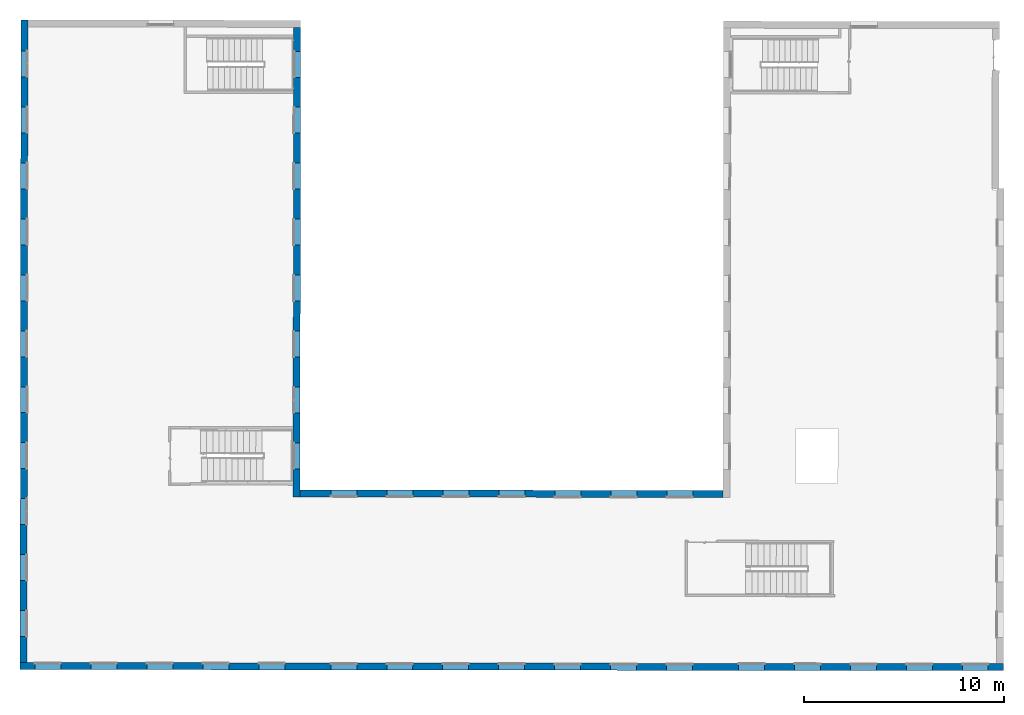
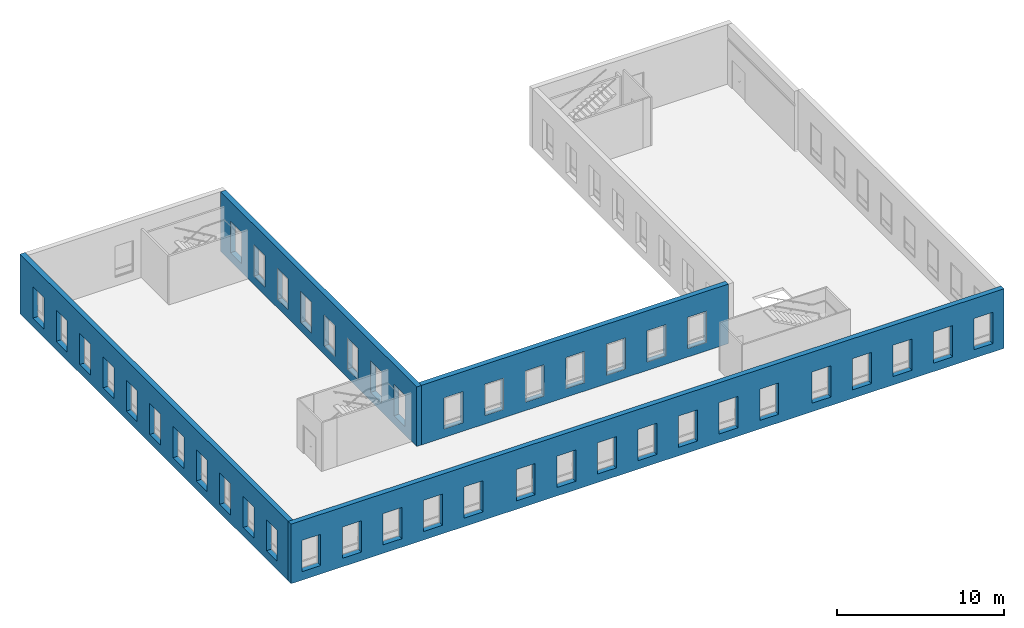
# One storey, part 30 of 35: 4 walls, 44 openings.
"""IFC2X3 building model written with IfcOpenShell, lengths in metres."""

from ifc_helpers import new_model, entity, si_unit, converted_unit, derived_unit, direction, frame, frame_2d, origin, place, context, subcontext, project, spatial, polyline, rectangle, outline, extrude, material, layer, layer_set, layer_usage, type_object, element, save


model = new_model("IFC2X3")

# Units and contexts
model_context = context("Model", 3, precision=1e-05, world=origin(), true_north=direction((6.123233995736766e-17, 1.0)))
body_context = subcontext(model_context, "Body", "Model", "MODEL_VIEW")
ifc_project = project(units=[si_unit("LENGTHUNIT", "METRE"), si_unit("AREAUNIT", "SQUARE_METRE"), converted_unit("PLANEANGLEUNIT", "DEGREE", entity("IfcPlaneAngleMeasure", 0.017453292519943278), si_unit("PLANEANGLEUNIT", "RADIAN"), dimensions=[0, 0, 0, 0, 0, 0, 0]), derived_unit("THERMALTRANSMITTANCEUNIT", [(si_unit("MASSUNIT", "GRAM", prefix="KILO"), 1), (si_unit("THERMODYNAMICTEMPERATUREUNIT", "KELVIN"), -1), (si_unit("TIMEUNIT", "SECOND"), -3)])], contexts=[model_context])

# Site, building, storey
site_placement = place(None, frame((1253.6752467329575, 2072.143113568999, 91.49999999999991), z_axis=(0.0, 0.0, 1.0), x_axis=(0.7237211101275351, 0.6900925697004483, 0.0)))
site = spatial("IfcSite", under=ifc_project, at=site_placement, Name="Surface", CompositionType="ELEMENT")
building_placement = place(site_placement, origin())
building = spatial("IfcBuilding", under=site, at=building_placement, CompositionType="ELEMENT")
storey_placement = place(building_placement, frame((0.0, 0.0, 3.549999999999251)))
storey = spatial("IfcBuildingStorey", under=building, at=storey_placement, Name="1-R+1", CompositionType="ELEMENT", Elevation=3.549999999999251)

# Wall, openings
ifc_material = material(Name="OMD_Béton blanc")
ifc_layer = layer(ifc_material, 0.35)
ifc_layer_set = layer_set([ifc_layer], Name="Mur de base:MUR 35")
ifc_layer_usage_1 = layer_usage(ifc_layer_set, "AXIS2", "NEGATIVE", 0.175)
wall_type = type_object("IfcWallType", Name="Mur de base:MUR 35", PredefinedType="STANDARD", material=ifc_layer_set)
wall_1_placement = place(storey_placement, frame((179.42358522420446, -29.603421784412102, 0.0), z_axis=(0.0, 0.0, 1.0), x_axis=(-0.7228702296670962, 0.6909838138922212, 0.0)))
wall_1 = element("IfcWallStandardCase", 1, at=wall_1_placement, inside=storey, type_object=wall_type, material=ifc_layer_usage_1, Name="Mur de base:MUR 35", ObjectType="Mur de base:MUR 35", context=body_context, shape_type="SweptSolid", body=[
    extrude(outline(polyline([(-0.11085834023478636, -24.599293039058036), (0.2391416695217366, -24.599293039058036), (0.22752499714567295, 24.599348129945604), (-0.12247499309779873, 24.599265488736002), (-0.12239235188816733, 24.249265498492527), (-0.11094098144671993, -24.24929303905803), (-0.11085834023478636, -24.599293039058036)])), frame((24.599293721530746, -0.05833333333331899, 0.0), z_axis=(0.0, 0.0, 1.0), x_axis=(0.00023611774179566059, 0.9999999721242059, 0.0)), (0.0, 0.0, 1.0), 4.3500000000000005),
])
opening_1_placement = place(storey_placement, frame((179.42358522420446, -29.603421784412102, 0.0), z_axis=(0.0, 0.0, 1.0), x_axis=(-0.7228702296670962, 0.6909838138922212, 0.0)))
element("IfcOpeningElement", 2, at=opening_1_placement, cuts=wall_1, Name="Mur de base:MUR 35:1", ObjectType="Opening", context=body_context, shape_type="SweptSolid", body=[
    extrude(rectangle(XDim=2.28, YDim=1.2996959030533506, at=frame_2d((-2.220446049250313e-16, -4.157785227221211e-14), x_axis=(1.0, 0.0))), frame((16.199867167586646, -0.17499999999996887, 1.7600000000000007), z_axis=(0.0, 1.0, 0.0), x_axis=(0.0, 0.0, 1.0)), (0.0, 0.0, 1.0), 0.3499999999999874),
])
opening_2_placement = place(storey_placement, frame((179.42358522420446, -29.603421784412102, 0.0), z_axis=(0.0, 0.0, 1.0), x_axis=(-0.7228702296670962, 0.6909838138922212, 0.0)))
element("IfcOpeningElement", 3, at=opening_2_placement, cuts=wall_1, Name="Mur de base:MUR 35:2", ObjectType="Opening", context=body_context, shape_type="SweptSolid", body=[
    extrude(rectangle(XDim=2.28, YDim=1.299695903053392, at=frame_2d((-2.220446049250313e-16, -6.605826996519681e-14), x_axis=(1.0, 0.0))), frame((18.99986453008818, -0.17499999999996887, 1.7600000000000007), z_axis=(0.0, 1.0, 0.0), x_axis=(0.0, 0.0, 1.0)), (0.0, 0.0, 1.0), 0.3499999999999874),
])
opening_3_placement = place(storey_placement, frame((179.42358522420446, -29.603421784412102, 0.0), z_axis=(0.0, 0.0, 1.0), x_axis=(-0.7228702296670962, 0.6909838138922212, 0.0)))
element("IfcOpeningElement", 4, at=opening_3_placement, cuts=wall_1, Name="Mur de base:MUR 35:3", ObjectType="Opening", context=body_context, shape_type="SweptSolid", body=[
    extrude(rectangle(XDim=2.28, YDim=1.29969590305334, at=frame_2d((-2.220446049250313e-16, -4.368727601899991e-14), x_axis=(1.0, 0.0))), frame((21.799861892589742, -0.17499999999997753, 1.7600000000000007), z_axis=(0.0, 1.0, 0.0), x_axis=(0.0, 0.0, 1.0)), (0.0, 0.0, 1.0), 0.3499999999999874),
])
opening_4_placement = place(storey_placement, frame((179.42358522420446, -29.603421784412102, 0.0), z_axis=(0.0, 0.0, 1.0), x_axis=(-0.7228702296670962, 0.6909838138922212, 0.0)))
element("IfcOpeningElement", 5, at=opening_4_placement, cuts=wall_1, Name="Mur de base:MUR 35:4", ObjectType="Opening", context=body_context, shape_type="SweptSolid", body=[
    extrude(rectangle(XDim=2.28, YDim=1.2996959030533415, at=frame_2d((-2.220446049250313e-16, -6.716849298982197e-15), x_axis=(1.0, 0.0))), frame((24.59985925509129, -0.17499999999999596, 1.7600000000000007), z_axis=(0.0, 1.0, 0.0), x_axis=(0.0, 0.0, 1.0)), (0.0, 0.0, 1.0), 0.3499999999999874),
])
opening_5_placement = place(storey_placement, frame((179.42358522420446, -29.603421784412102, 0.0), z_axis=(0.0, 0.0, 1.0), x_axis=(-0.7228702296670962, 0.6909838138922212, 0.0)))
element("IfcOpeningElement", 6, at=opening_5_placement, cuts=wall_1, Name="Mur de base:MUR 35:5", ObjectType="Opening", context=body_context, shape_type="SweptSolid", body=[
    extrude(rectangle(XDim=2.28, YDim=1.2996959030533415, at=frame_2d((8.881784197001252e-16, -4.29101199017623e-14), x_axis=(1.0, 0.0))), frame((27.399856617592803, -0.1749999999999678, 1.7599999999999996), z_axis=(0.0, 1.0, 0.0), x_axis=(0.0, 0.0, 1.0)), (0.0, 0.0, 1.0), 0.3499999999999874),
])
opening_6_placement = place(storey_placement, frame((179.42358522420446, -29.603421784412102, 0.0), z_axis=(0.0, 0.0, 1.0), x_axis=(-0.7228702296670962, 0.6909838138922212, 0.0)))
element("IfcOpeningElement", 7, at=opening_6_placement, cuts=wall_1, Name="Mur de base:MUR 35:6", ObjectType="Opening", context=body_context, shape_type="SweptSolid", body=[
    extrude(rectangle(XDim=2.28, YDim=1.2996959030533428, at=frame_2d((-2.220446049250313e-16, -4.2243986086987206e-14), x_axis=(1.0, 0.0))), frame((30.199853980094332, -0.1749999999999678, 1.7600000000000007), z_axis=(0.0, 1.0, 0.0), x_axis=(0.0, 0.0, 1.0)), (0.0, 0.0, 1.0), 0.34999999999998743),
])
opening_7_placement = place(storey_placement, frame((179.42358522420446, -29.603421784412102, 0.0), z_axis=(0.0, 0.0, 1.0), x_axis=(-0.7228702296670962, 0.6909838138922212, 0.0)))
element("IfcOpeningElement", 8, at=opening_7_placement, cuts=wall_1, Name="Mur de base:MUR 35:7", ObjectType="Opening", context=body_context, shape_type="SweptSolid", body=[
    extrude(rectangle(XDim=2.28, YDim=1.2996959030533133, at=frame_2d((-2.220446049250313e-16, -3.2307490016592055e-14), x_axis=(1.0, 0.0))), frame((32.999851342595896, -0.17499999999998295, 1.7600000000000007), z_axis=(0.0, 1.0, 0.0), x_axis=(0.0, 0.0, 1.0)), (0.0, 0.0, 1.0), 0.34999999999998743),
])
opening_8_placement = place(storey_placement, frame((179.42358522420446, -29.603421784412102, 0.0), z_axis=(0.0, 0.0, 1.0), x_axis=(-0.7228702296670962, 0.6909838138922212, 0.0)))
element("IfcOpeningElement", 9, at=opening_8_placement, cuts=wall_1, Name="Mur de base:MUR 35:8", ObjectType="Opening", context=body_context, shape_type="SweptSolid", body=[
    extrude(rectangle(XDim=2.28, YDim=1.2996959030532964, at=frame_2d((-2.220446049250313e-16, -1.8318679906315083e-15), x_axis=(1.0, 0.0))), frame((47.79984795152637, -0.17499999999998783, 1.7600000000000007), z_axis=(0.0, 1.0, 0.0), x_axis=(0.0, 0.0, 1.0)), (0.0, 0.0, 1.0), 0.3499999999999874),
])
opening_9_placement = place(storey_placement, frame((179.42358522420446, -29.603421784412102, 0.0), z_axis=(0.0, 0.0, 1.0), x_axis=(-0.7228702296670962, 0.6909838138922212, 0.0)))
element("IfcOpeningElement", 10, at=opening_9_placement, cuts=wall_1, Name="Mur de base:MUR 35:9", ObjectType="Opening", context=body_context, shape_type="SweptSolid", body=[
    extrude(rectangle(XDim=2.28, YDim=1.2996959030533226, at=frame_2d((8.881784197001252e-16, -2.398081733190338e-14), x_axis=(1.0, 0.0))), frame((45.00027978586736, -0.17499999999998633, 1.7599999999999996), z_axis=(0.0, 1.0, 0.0), x_axis=(0.0, 0.0, 1.0)), (0.0, 0.0, 1.0), 0.3499999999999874),
])
opening_10_placement = place(storey_placement, frame((179.42358522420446, -29.603421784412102, 0.0), z_axis=(0.0, 0.0, 1.0), x_axis=(-0.7228702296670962, 0.6909838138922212, 0.0)))
element("IfcOpeningElement", 11, at=opening_10_placement, cuts=wall_1, Name="Mur de base:MUR 35:10", ObjectType="Opening", context=body_context, shape_type="SweptSolid", body=[
    extrude(rectangle(XDim=2.28, YDim=1.2996959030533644, at=frame_2d((-2.220446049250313e-16, -1.3877787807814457e-14), x_axis=(1.0, 0.0))), frame((42.19984795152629, -0.17499999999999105, 1.7600000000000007), z_axis=(0.0, 1.0, 0.0), x_axis=(0.0, 0.0, 1.0)), (0.0, 0.0, 1.0), 0.3499999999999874),
])
opening_11_placement = place(storey_placement, frame((179.42358522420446, -29.603421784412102, 0.0), z_axis=(0.0, 0.0, 1.0), x_axis=(-0.7228702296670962, 0.6909838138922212, 0.0)))
element("IfcOpeningElement", 12, at=opening_11_placement, cuts=wall_1, Name="Mur de base:MUR 35:11", ObjectType="Opening", context=body_context, shape_type="SweptSolid", body=[
    extrude(rectangle(XDim=2.28, YDim=1.299695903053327, at=frame_2d((-2.220446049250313e-16, -3.191891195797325e-14), x_axis=(1.0, 0.0))), frame((39.399847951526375, -0.17499999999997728, 1.7600000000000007), z_axis=(0.0, 1.0, 0.0), x_axis=(0.0, 0.0, 1.0)), (0.0, 0.0, 1.0), 0.3499999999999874),
])
opening_12_placement = place(storey_placement, frame((179.42358522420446, -29.603421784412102, 0.0), z_axis=(0.0, 0.0, 1.0), x_axis=(-0.7228702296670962, 0.6909838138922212, 0.0)))
element("IfcOpeningElement", 13, at=opening_12_placement, cuts=wall_1, Name="Mur de base:MUR 35:12", ObjectType="Opening", context=body_context, shape_type="SweptSolid", body=[
    extrude(rectangle(XDim=2.28, YDim=1.2996959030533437, at=frame_2d((-2.220446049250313e-16, -2.2593038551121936e-14), x_axis=(1.0, 0.0))), frame((36.59984795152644, -0.17499999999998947, 1.7600000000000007), z_axis=(0.0, 1.0, 0.0), x_axis=(0.0, 0.0, 1.0)), (0.0, 0.0, 1.0), 0.3499999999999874),
])
opening_13_placement = place(storey_placement, frame((179.42358522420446, -29.603421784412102, 0.0), z_axis=(0.0, 0.0, 1.0), x_axis=(-0.7228702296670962, 0.6909838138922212, 0.0)))
element("IfcOpeningElement", 14, at=opening_13_placement, cuts=wall_1, Name="Mur de base:MUR 35:13", ObjectType="Opening", context=body_context, shape_type="SweptSolid", body=[
    extrude(rectangle(XDim=2.28, YDim=1.2996959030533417, at=frame_2d((8.881784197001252e-16, -2.7533531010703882e-14), x_axis=(1.0, 0.0))), frame((12.599847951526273, -0.17499999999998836, 1.7599999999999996), z_axis=(0.0, 1.0, 0.0), x_axis=(0.0, 0.0, 1.0)), (0.0, 0.0, 1.0), 0.3499999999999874),
])
opening_14_placement = place(storey_placement, frame((179.42358522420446, -29.603421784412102, 0.0), z_axis=(0.0, 0.0, 1.0), x_axis=(-0.7228702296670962, 0.6909838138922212, 0.0)))
element("IfcOpeningElement", 15, at=opening_14_placement, cuts=wall_1, Name="Mur de base:MUR 35:14", ObjectType="Opening", context=body_context, shape_type="SweptSolid", body=[
    extrude(rectangle(XDim=2.28, YDim=1.2996959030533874, at=frame_2d((-2.220446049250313e-16, -4.596323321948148e-14), x_axis=(1.0, 0.0))), frame((9.799847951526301, -0.1749999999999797, 1.7600000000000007), z_axis=(0.0, 1.0, 0.0), x_axis=(0.0, 0.0, 1.0)), (0.0, 0.0, 1.0), 0.3499999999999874),
])
opening_15_placement = place(storey_placement, frame((179.42358522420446, -29.603421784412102, 0.0), z_axis=(0.0, 0.0, 1.0), x_axis=(-0.7228702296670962, 0.6909838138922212, 0.0)))
element("IfcOpeningElement", 16, at=opening_15_placement, cuts=wall_1, Name="Mur de base:MUR 35:15", ObjectType="Opening", context=body_context, shape_type="SweptSolid", body=[
    extrude(rectangle(XDim=2.28, YDim=1.2996959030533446, at=frame_2d((-2.220446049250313e-16, -4.451994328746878e-14), x_axis=(1.0, 0.0))), frame((6.9998479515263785, -0.1749999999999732, 1.7600000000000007), z_axis=(0.0, 1.0, 0.0), x_axis=(0.0, 0.0, 1.0)), (0.0, 0.0, 1.0), 0.3499999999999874),
])
opening_16_placement = place(storey_placement, frame((179.42358522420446, -29.603421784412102, 0.0), z_axis=(0.0, 0.0, 1.0), x_axis=(-0.7228702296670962, 0.6909838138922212, 0.0)))
element("IfcOpeningElement", 17, at=opening_16_placement, cuts=wall_1, Name="Mur de base:MUR 35:16", ObjectType="Opening", context=body_context, shape_type="SweptSolid", body=[
    extrude(rectangle(XDim=2.28, YDim=1.2996959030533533, at=frame_2d((8.881784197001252e-16, -4.446443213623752e-14), x_axis=(1.0, 0.0))), frame((4.199847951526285, -0.17499999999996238, 1.7599999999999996), z_axis=(0.0, 1.0, 0.0), x_axis=(0.0, 0.0, 1.0)), (0.0, 0.0, 1.0), 0.3499999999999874),
])
opening_17_placement = place(storey_placement, frame((179.42358522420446, -29.603421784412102, 0.0), z_axis=(0.0, 0.0, 1.0), x_axis=(-0.7228702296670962, 0.6909838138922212, 0.0)))
element("IfcOpeningElement", 18, at=opening_17_placement, cuts=wall_1, Name="Mur de base:MUR 35:17", ObjectType="Opening", context=body_context, shape_type="SweptSolid", body=[
    extrude(rectangle(XDim=2.28, YDim=1.2996959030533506, at=frame_2d((-2.220446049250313e-16, -5.995204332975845e-15), x_axis=(1.0, 0.0))), frame((1.4083698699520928, -0.1749999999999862, 1.7600000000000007), z_axis=(0.0, 1.0, 0.0), x_axis=(0.0, 0.0, 1.0)), (0.0, 0.0, 1.0), 0.3499999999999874),
])

ifc_layer_usage_2 = layer_usage(ifc_layer_set, "AXIS2", "NEGATIVE", 0.175)
wall_2_placement = place(storey_placement, frame((144.1068068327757, 4.397537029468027, 0.0), z_axis=(0.0, 0.0, 1.0), x_axis=(0.6911544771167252, 0.7227070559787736, 0.0)))
wall_2 = element("IfcWallStandardCase", 19, at=wall_2_placement, inside=storey, type_object=wall_type, material=ifc_layer_usage_2, Name="Mur de base:MUR 35", ObjectType="Mur de base:MUR 35", context=body_context, shape_type="SweptSolid", body=[
    extrude(outline(polyline([(-0.15218246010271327, -9.243082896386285), (0.19781754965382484, -9.243082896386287), (0.19782494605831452, -9.21175782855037), (0.20540742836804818, 22.901382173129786), (-0.14459258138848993, 22.901382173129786), (-0.15209981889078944, -8.893082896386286), (-0.15217506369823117, -9.211757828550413), (-0.15218246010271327, -9.243082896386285)])), frame((22.901430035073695, -0.025000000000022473, 0.0), z_axis=(0.0, 0.0, 1.0), x_axis=(-0.0002361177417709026, 0.9999999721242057, 0.0)), (0.0, 0.0, 1.0), 4.3500000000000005),
])
opening_18_placement = place(storey_placement, frame((144.1068068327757, 4.397537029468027, 0.0), z_axis=(0.0, 0.0, 1.0), x_axis=(0.6911544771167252, 0.7227070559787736, 0.0)))
element("IfcOpeningElement", 20, at=opening_18_placement, cuts=wall_2, Name="Mur de base:MUR 35:1", ObjectType="Opening", context=body_context, shape_type="SweptSolid", body=[
    extrude(rectangle(XDim=2.28, YDim=1.299695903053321, at=frame_2d((-2.220446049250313e-16, -1.071365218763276e-14), x_axis=(1.0, 0.0))), frame((15.946270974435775, -0.17500000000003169, 1.7600000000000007), z_axis=(0.0, 1.0, 0.0), x_axis=(0.0, 0.0, 1.0)), (0.0, 0.0, 1.0), 0.3500000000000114),
])
opening_19_placement = place(storey_placement, frame((144.1068068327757, 4.397537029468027, 0.0), z_axis=(0.0, 0.0, 1.0), x_axis=(0.6911544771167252, 0.7227070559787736, 0.0)))
element("IfcOpeningElement", 21, at=opening_19_placement, cuts=wall_2, Name="Mur de base:MUR 35:2", ObjectType="Opening", context=body_context, shape_type="SweptSolid", body=[
    extrude(rectangle(XDim=2.28, YDim=1.2996959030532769, at=frame_2d((-2.220446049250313e-16, 2.1371793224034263e-14), x_axis=(1.0, 0.0))), frame((18.746269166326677, -0.17500000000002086, 1.7600000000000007), z_axis=(0.0, 1.0, 0.0), x_axis=(0.0, 0.0, 1.0)), (0.0, 0.0, 1.0), 0.3500000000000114),
])
opening_20_placement = place(storey_placement, frame((144.1068068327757, 4.397537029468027, 0.0), z_axis=(0.0, 0.0, 1.0), x_axis=(0.6911544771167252, 0.7227070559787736, 0.0)))
element("IfcOpeningElement", 22, at=opening_20_placement, cuts=wall_2, Name="Mur de base:MUR 35:3", ObjectType="Opening", context=body_context, shape_type="SweptSolid", body=[
    extrude(rectangle(XDim=2.28, YDim=1.2996959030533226, at=frame_2d((-2.220446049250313e-16, -1.9761969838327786e-14), x_axis=(1.0, 0.0))), frame((29.9462671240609, -0.17500000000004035, 1.7600000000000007), z_axis=(0.0, 1.0, 0.0), x_axis=(0.0, 0.0, 1.0)), (0.0, 0.0, 1.0), 0.3500000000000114),
])
opening_21_placement = place(storey_placement, frame((144.1068068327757, 4.397537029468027, 0.0), z_axis=(0.0, 0.0, 1.0), x_axis=(0.6911544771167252, 0.7227070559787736, 0.0)))
element("IfcOpeningElement", 23, at=opening_21_placement, cuts=wall_2, Name="Mur de base:MUR 35:4", ObjectType="Opening", context=body_context, shape_type="SweptSolid", body=[
    extrude(rectangle(XDim=2.28, YDim=1.2996959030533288, at=frame_2d((-2.220446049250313e-16, -1.9761969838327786e-14), x_axis=(1.0, 0.0))), frame((27.146267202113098, -0.1750000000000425, 1.7600000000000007), z_axis=(0.0, 1.0, 0.0), x_axis=(0.0, 0.0, 1.0)), (0.0, 0.0, 1.0), 0.3500000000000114),
])
opening_22_placement = place(storey_placement, frame((144.1068068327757, 4.397537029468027, 0.0), z_axis=(0.0, 0.0, 1.0), x_axis=(0.6911544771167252, 0.7227070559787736, 0.0)))
element("IfcOpeningElement", 24, at=opening_22_placement, cuts=wall_2, Name="Mur de base:MUR 35:5", ObjectType="Opening", context=body_context, shape_type="SweptSolid", body=[
    extrude(rectangle(XDim=2.28, YDim=1.2996959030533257, at=frame_2d((-2.220446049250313e-16, 1.8207657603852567e-14), x_axis=(1.0, 0.0))), frame((24.346267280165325, -0.17500000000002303, 1.7600000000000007), z_axis=(0.0, 1.0, 0.0), x_axis=(0.0, 0.0, 1.0)), (0.0, 0.0, 1.0), 0.3500000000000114),
])
opening_23_placement = place(storey_placement, frame((144.1068068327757, 4.397537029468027, 0.0), z_axis=(0.0, 0.0, 1.0), x_axis=(0.6911544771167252, 0.7227070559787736, 0.0)))
element("IfcOpeningElement", 25, at=opening_23_placement, cuts=wall_2, Name="Mur de base:MUR 35:6", ObjectType="Opening", context=body_context, shape_type="SweptSolid", body=[
    extrude(rectangle(XDim=2.28, YDim=1.2996959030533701, at=frame_2d((-2.220446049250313e-16, -2.220446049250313e-14), x_axis=(1.0, 0.0))), frame((21.54626735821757, -0.17500000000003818, 1.7600000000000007), z_axis=(0.0, 1.0, 0.0), x_axis=(0.0, 0.0, 1.0)), (0.0, 0.0, 1.0), 0.3500000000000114),
])
opening_24_placement = place(storey_placement, frame((144.1068068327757, 4.397537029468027, 0.0), z_axis=(0.0, 0.0, 1.0), x_axis=(0.6911544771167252, 0.7227070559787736, 0.0)))
element("IfcOpeningElement", 26, at=opening_24_placement, cuts=wall_2, Name="Mur de base:MUR 35:7", ObjectType="Opening", context=body_context, shape_type="SweptSolid", body=[
    extrude(rectangle(XDim=2.28, YDim=1.2996959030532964, at=frame_2d((-2.220446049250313e-16, -9.103828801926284e-15), x_axis=(1.0, 0.0))), frame((13.146267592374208, -0.17500000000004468, 1.7600000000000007), z_axis=(0.0, 1.0, 0.0), x_axis=(0.0, 0.0, 1.0)), (0.0, 0.0, 1.0), 0.3500000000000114),
])
opening_25_placement = place(storey_placement, frame((144.1068068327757, 4.397537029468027, 0.0), z_axis=(0.0, 0.0, 1.0), x_axis=(0.6911544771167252, 0.7227070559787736, 0.0)))
element("IfcOpeningElement", 27, at=opening_25_placement, cuts=wall_2, Name="Mur de base:MUR 35:8", ObjectType="Opening", context=body_context, shape_type="SweptSolid", body=[
    extrude(rectangle(XDim=2.28, YDim=1.2996959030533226, at=frame_2d((-2.220446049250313e-16, -1.149080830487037e-14), x_axis=(1.0, 0.0))), frame((10.346267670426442, -0.17500000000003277, 1.7600000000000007), z_axis=(0.0, 1.0, 0.0), x_axis=(0.0, 0.0, 1.0)), (0.0, 0.0, 1.0), 0.3500000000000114),
])
opening_26_placement = place(storey_placement, frame((144.1068068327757, 4.397537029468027, 0.0), z_axis=(0.0, 0.0, 1.0), x_axis=(0.6911544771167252, 0.7227070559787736, 0.0)))
element("IfcOpeningElement", 28, at=opening_26_placement, cuts=wall_2, Name="Mur de base:MUR 35:9", ObjectType="Opening", context=body_context, shape_type="SweptSolid", body=[
    extrude(rectangle(XDim=2.28, YDim=1.2996959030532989, at=frame_2d((-2.220446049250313e-16, 1.6542323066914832e-14), x_axis=(1.0, 0.0))), frame((7.546267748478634, -0.1750000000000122, 1.7600000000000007), z_axis=(0.0, 1.0, 0.0), x_axis=(0.0, 0.0, 1.0)), (0.0, 0.0, 1.0), 0.3500000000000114),
])
opening_27_placement = place(storey_placement, frame((144.1068068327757, 4.397537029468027, 0.0), z_axis=(0.0, 0.0, 1.0), x_axis=(0.6911544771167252, 0.7227070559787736, 0.0)))
element("IfcOpeningElement", 29, at=opening_27_placement, cuts=wall_2, Name="Mur de base:MUR 35:10", ObjectType="Opening", context=body_context, shape_type="SweptSolid", body=[
    extrude(rectangle(XDim=2.28, YDim=1.299695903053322, at=frame_2d((-2.220446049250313e-16, -1.071365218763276e-14), x_axis=(1.0, 0.0))), frame((4.746267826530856, -0.17500000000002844, 1.7600000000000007), z_axis=(0.0, 1.0, 0.0), x_axis=(0.0, 0.0, 1.0)), (0.0, 0.0, 1.0), 0.3500000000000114),
])
opening_28_placement = place(storey_placement, frame((144.1068068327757, 4.397537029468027, 0.0), z_axis=(0.0, 0.0, 1.0), x_axis=(0.6911544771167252, 0.7227070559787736, 0.0)))
element("IfcOpeningElement", 30, at=opening_28_placement, cuts=wall_2, Name="Mur de base:MUR 35:11", ObjectType="Opening", context=body_context, shape_type="SweptSolid", body=[
    extrude(rectangle(XDim=2.28, YDim=1.2996959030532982, at=frame_2d((-2.220446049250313e-16, -8.326672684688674e-15), x_axis=(1.0, 0.0))), frame((1.9512679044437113, -0.17500000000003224, 1.7600000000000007), z_axis=(0.0, 1.0, 0.0), x_axis=(0.0, 0.0, 1.0)), (0.0, 0.0, 1.0), 0.3500000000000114),
])

ifc_layer_usage_3 = layer_usage(ifc_layer_set, "AXIS2", "NEGATIVE", 0.175)
wall_3_placement = place(storey_placement, frame((175.94243375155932, 17.949905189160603, 0.0), z_axis=(0.0, 0.0, 1.0), x_axis=(-0.6909838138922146, -0.7228702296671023, 0.0)))
wall_3 = element("IfcWallStandardCase", 31, at=wall_3_placement, inside=storey, type_object=wall_type, material=ifc_layer_usage_3, Name="Mur de base:MUR 35", ObjectType="Mur de base:MUR 35", context=body_context, shape_type="SweptSolid", body=[
    extrude(rectangle(XDim=23.49446506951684, YDim=0.3500000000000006, at=frame_2d((11.747232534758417, -1.4432899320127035e-15), x_axis=(-1.0, 0.0))), origin(), (0.0, 0.0, 1.0), 4.3500000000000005),
])
opening_29_placement = place(wall_3_placement, frame((2.825191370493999, -0.014760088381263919, 0.6200000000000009)))
element("IfcOpeningElement", 32, at=opening_29_placement, cuts=wall_3, Name="Mur de base:MUR 35", ObjectType="Opening", context=body_context, shape_type="SweptSolid", body=[
    extrude(rectangle(XDim=2.28, YDim=1.2996959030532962, at=frame_2d((0.0, 8.881784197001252e-16), x_axis=(0.0, 1.0))), frame((-0.976915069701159, -0.3126399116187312, 1.1399999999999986), z_axis=(0.0, 1.0, 0.0), x_axis=(-1.0, 0.0, 0.0)), (0.0, 0.0, 1.0), 0.6547999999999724),
])
opening_30_placement = place(wall_3_placement, frame((5.621228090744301, -0.014760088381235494, 0.6200000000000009)))
element("IfcOpeningElement", 33, at=opening_30_placement, cuts=wall_3, Name="Mur de base:MUR 35", ObjectType="Opening", context=body_context, shape_type="SweptSolid", body=[
    extrude(rectangle(XDim=2.28, YDim=1.299695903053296, at=frame_2d((1.5543122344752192e-15, 8.881784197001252e-16), x_axis=(0.0, 1.0))), frame((-0.9769150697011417, -0.31263991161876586, 1.1399999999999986), z_axis=(0.0, 1.0, 0.0), x_axis=(-1.0, 0.0, 0.0)), (0.0, 0.0, 1.0), 0.6547999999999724),
])
opening_31_placement = place(wall_3_placement, frame((8.421228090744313, -0.014760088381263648, 0.6200000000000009)))
element("IfcOpeningElement", 34, at=opening_31_placement, cuts=wall_3, Name="Mur de base:MUR 35", ObjectType="Opening", context=body_context, shape_type="SweptSolid", body=[
    extrude(rectangle(XDim=2.28, YDim=1.2996959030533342, at=frame_2d((1.892930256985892e-14, 8.881784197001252e-16), x_axis=(0.0, 1.0))), frame((-0.9769150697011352, -0.31263991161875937, 1.1399999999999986), z_axis=(0.0, 1.0, 0.0), x_axis=(-1.0, 0.0, 0.0)), (0.0, 0.0, 1.0), 0.6547999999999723),
])
opening_32_placement = place(wall_3_placement, frame((11.221228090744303, -0.01476008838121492, 0.6200000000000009)))
element("IfcOpeningElement", 35, at=opening_32_placement, cuts=wall_3, Name="Mur de base:MUR 35", ObjectType="Opening", context=body_context, shape_type="SweptSolid", body=[
    extrude(rectangle(XDim=2.28, YDim=1.2996959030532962, at=frame_2d((0.0, 8.881784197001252e-16), x_axis=(0.0, 1.0))), frame((-0.9769150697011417, -0.31263991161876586, 1.1399999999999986), z_axis=(0.0, 1.0, 0.0), x_axis=(-1.0, 0.0, 0.0)), (0.0, 0.0, 1.0), 0.6547999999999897),
])
opening_33_placement = place(wall_3_placement, frame((14.021228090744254, -0.014760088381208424, 0.6200000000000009)))
element("IfcOpeningElement", 36, at=opening_33_placement, cuts=wall_3, Name="Mur de base:MUR 35", ObjectType="Opening", context=body_context, shape_type="SweptSolid", body=[
    extrude(rectangle(XDim=2.28, YDim=1.2996959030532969, at=frame_2d((3.885780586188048e-16, 8.881784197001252e-16), x_axis=(0.0, 1.0))), frame((-0.9769150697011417, -0.31263991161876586, 1.1399999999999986), z_axis=(0.0, 1.0, 0.0), x_axis=(-1.0, 0.0, 0.0)), (0.0, 0.0, 1.0), 0.6547999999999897),
])
opening_34_placement = place(wall_3_placement, frame((16.821228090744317, -0.014760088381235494, 0.6200000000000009)))
element("IfcOpeningElement", 37, at=opening_34_placement, cuts=wall_3, Name="Mur de base:MUR 35", ObjectType="Opening", context=body_context, shape_type="SweptSolid", body=[
    extrude(rectangle(XDim=2.28, YDim=1.2996959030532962, at=frame_2d((0.0, 8.881784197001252e-16), x_axis=(0.0, 1.0))), frame((-0.9769150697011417, -0.31263991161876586, 1.1399999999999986), z_axis=(0.0, 1.0, 0.0), x_axis=(-1.0, 0.0, 0.0)), (0.0, 0.0, 1.0), 0.6547999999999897),
])
opening_35_placement = place(wall_3_placement, frame((22.421228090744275, -0.014760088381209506, 0.6200000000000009)))
element("IfcOpeningElement", 38, at=opening_35_placement, cuts=wall_3, Name="Mur de base:MUR 35", ObjectType="Opening", context=body_context, shape_type="SweptSolid", body=[
    extrude(rectangle(XDim=2.28, YDim=1.2996959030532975, at=frame_2d((0.0, 8.881784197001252e-16), x_axis=(0.0, 1.0))), frame((-0.976915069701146, -0.3126399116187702, 1.1399999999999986), z_axis=(0.0, 1.0, 0.0), x_axis=(-1.0, 0.0, 0.0)), (0.0, 0.0, 1.0), 0.6547999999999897),
])
opening_36_placement = place(wall_3_placement, frame((18.97153218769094, -0.014760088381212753, 0.6200000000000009)))
element("IfcOpeningElement", 39, at=opening_36_placement, cuts=wall_3, Name="Mur de base:MUR 35", ObjectType="Opening", context=body_context, shape_type="SweptSolid", body=[
    extrude(rectangle(XDim=2.28, YDim=0.6500000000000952, at=frame_2d((-2.220446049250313e-16, -1.8207657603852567e-14), x_axis=(1.0, 0.0))), frame((-0.6520671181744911, -0.3126399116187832, 1.1399999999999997), z_axis=(0.0, 1.0, 0.0), x_axis=(0.0, 0.0, 1.0)), (0.0, 0.0, 1.0), 0.6547999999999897),
])
opening_37_placement = place(wall_3_placement, frame((19.621228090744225, -0.014760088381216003, 0.6200000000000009)))
element("IfcOpeningElement", 40, at=opening_37_placement, cuts=wall_3, Name="Mur de base:MUR 35", ObjectType="Opening", context=body_context, shape_type="SweptSolid", body=[
    extrude(rectangle(XDim=2.28, YDim=0.6496959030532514, at=frame_2d((0.0, 8.881784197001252e-16), x_axis=(0.0, 1.0))), frame((-0.6519150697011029, -0.31263991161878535, 1.1399999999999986), z_axis=(0.0, 1.0, 0.0), x_axis=(-1.0, 0.0, 0.0)), (0.0, 0.0, 1.0), 0.6547999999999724),
])

ifc_layer_usage_4 = layer_usage(ifc_layer_set, "AXIS2", "NEGATIVE", 0.175)
wall_4_placement = place(storey_placement, frame((159.95556313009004, 0.9720359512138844, 0.0), z_axis=(0.0, 0.0, 1.0), x_axis=(0.7228702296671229, -0.6909838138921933, 0.0)))
wall_4 = element("IfcWallStandardCase", 41, at=wall_4_placement, inside=storey, type_object=wall_type, material=ifc_layer_usage_4, Name="Mur de base:MUR 35", ObjectType="Mur de base:MUR 35", context=body_context, shape_type="SweptSolid", body=[
    extrude(rectangle(XDim=21.166403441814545, YDim=0.3499999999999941, at=frame_2d((10.583201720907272, -3.58046925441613e-15), x_axis=(-1.0, 0.0))), origin(), (0.0, 0.0, 1.0), 4.3500000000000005),
])
opening_38_placement = place(wall_4_placement, frame((13.371047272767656, -0.9765872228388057, 0.6200000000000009)))
element("IfcOpeningElement", 42, at=opening_38_placement, cuts=wall_4, Name="Mur de base:MUR 35", ObjectType="Opening", context=body_context, shape_type="SweptSolid", body=[
    extrude(rectangle(XDim=2.2799999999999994, YDim=1.2996959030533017, at=frame_2d((1.815214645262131e-14, 0.0), x_axis=(0.0, 1.0))), frame((0.029296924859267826, 0.6491872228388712, 1.1399999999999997), z_axis=(0.0, 1.0, 0.0), x_axis=(-1.0, 0.0, 0.0)), (0.0, 0.0, 1.0), 0.6548000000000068),
])
opening_39_placement = place(wall_4_placement, frame((2.167550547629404, -0.9765872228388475, 0.6200000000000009)))
element("IfcOpeningElement", 43, at=opening_39_placement, cuts=wall_4, Name="Mur de base:MUR 35", ObjectType="Opening", context=body_context, shape_type="SweptSolid", body=[
    extrude(rectangle(XDim=2.2799999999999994, YDim=1.2996959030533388, at=frame_2d((0.0, 0.0), x_axis=(0.0, 1.0))), frame((0.029296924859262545, 0.6491872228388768, 1.1399999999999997), z_axis=(0.0, 1.0, 0.0), x_axis=(-1.0, 0.0, 0.0)), (0.0, 0.0, 1.0), 0.6547999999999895),
])
opening_40_placement = place(wall_4_placement, frame((4.971047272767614, -0.9765872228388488, 0.6200000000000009)))
element("IfcOpeningElement", 44, at=opening_40_placement, cuts=wall_4, Name="Mur de base:MUR 35", ObjectType="Opening", context=body_context, shape_type="SweptSolid", body=[
    extrude(rectangle(XDim=2.2799999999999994, YDim=1.2996959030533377, at=frame_2d((1.6653345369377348e-16, 0.0), x_axis=(0.0, 1.0))), frame((0.029296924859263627, 0.6491872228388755, 1.1399999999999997), z_axis=(0.0, 1.0, 0.0), x_axis=(-1.0, 0.0, 0.0)), (0.0, 0.0, 1.0), 0.6547999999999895),
])
opening_41_placement = place(wall_4_placement, frame((7.771047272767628, -0.9765872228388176, 0.6200000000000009)))
element("IfcOpeningElement", 45, at=opening_41_placement, cuts=wall_4, Name="Mur de base:MUR 35", ObjectType="Opening", context=body_context, shape_type="SweptSolid", body=[
    extrude(rectangle(XDim=2.2799999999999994, YDim=1.2996959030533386, at=frame_2d((1.1102230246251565e-16, 0.0), x_axis=(0.0, 1.0))), frame((0.029296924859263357, 0.649187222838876, 1.1399999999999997), z_axis=(0.0, 1.0, 0.0), x_axis=(-1.0, 0.0, 0.0)), (0.0, 0.0, 1.0), 0.6547999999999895),
])
opening_42_placement = place(wall_4_placement, frame((10.571047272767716, -0.9765872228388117, 0.6200000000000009)))
element("IfcOpeningElement", 46, at=opening_42_placement, cuts=wall_4, Name="Mur de base:MUR 35", ObjectType="Opening", context=body_context, shape_type="SweptSolid", body=[
    extrude(rectangle(XDim=2.2799999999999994, YDim=1.2996959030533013, at=frame_2d((1.8485213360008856e-14, 0.0), x_axis=(0.0, 1.0))), frame((0.029296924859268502, 0.6491872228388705, 1.1399999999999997), z_axis=(0.0, 1.0, 0.0), x_axis=(-1.0, 0.0, 0.0)), (0.0, 0.0, 1.0), 0.6548000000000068),
])
opening_43_placement = place(wall_4_placement, frame((16.171047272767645, -0.976587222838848, 0.6200000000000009)))
element("IfcOpeningElement", 47, at=opening_43_placement, cuts=wall_4, Name="Mur de base:MUR 35", ObjectType="Opening", context=body_context, shape_type="SweptSolid", body=[
    extrude(rectangle(XDim=2.2799999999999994, YDim=1.2996959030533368, at=frame_2d((0.0, 0.0), x_axis=(0.0, 1.0))), frame((0.029296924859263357, 0.649187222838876, 1.1399999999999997), z_axis=(0.0, 1.0, 0.0), x_axis=(-1.0, 0.0, 0.0)), (0.0, 0.0, 1.0), 0.6547999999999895),
])
opening_44_placement = place(wall_4_placement, frame((18.971047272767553, -0.9765872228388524, 0.6200000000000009)))
element("IfcOpeningElement", 48, at=opening_44_placement, cuts=wall_4, Name="Mur de base:MUR 35", ObjectType="Opening", context=body_context, shape_type="SweptSolid", body=[
    extrude(rectangle(XDim=2.2799999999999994, YDim=1.2996959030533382, at=frame_2d((6.661338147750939e-16, 0.0), x_axis=(0.0, 1.0))), frame((0.029296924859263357, 0.649187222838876, 1.1399999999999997), z_axis=(0.0, 1.0, 0.0), x_axis=(-1.0, 0.0, 0.0)), (0.0, 0.0, 1.0), 0.6548000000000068),
])

save(model, "model.ifc")
